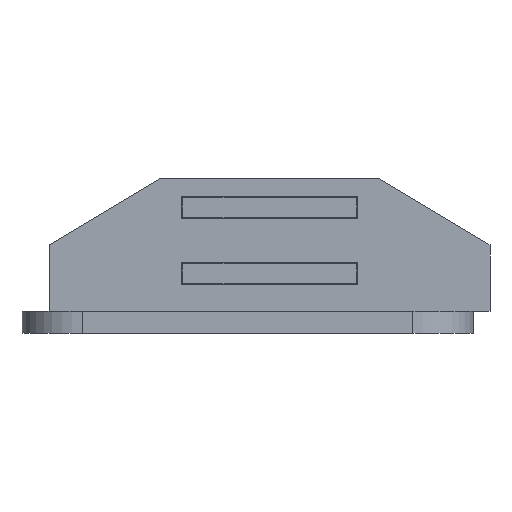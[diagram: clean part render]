
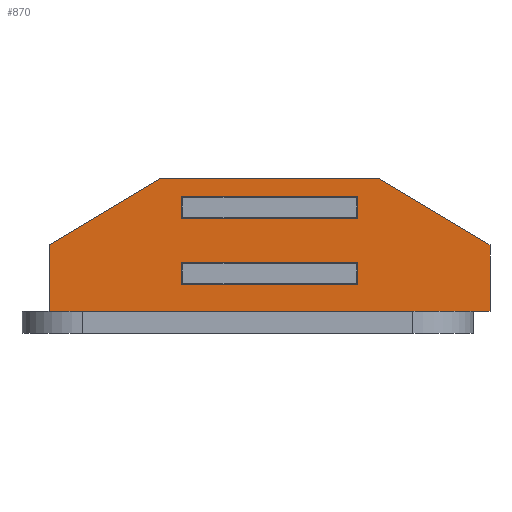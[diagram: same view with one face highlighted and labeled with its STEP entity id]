
A CAD part, front view. The second image highlights one B-rep face of the part: STEP entity #870.
In plain terms, the highlighted planar face has unit normal (0, -1, 0) as drawn and (0, 0, 1) by its records, which use the part's own axes.
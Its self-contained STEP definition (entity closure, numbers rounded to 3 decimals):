
#684=CARTESIAN_POINT('',(8.4,-8.0,13.0));
#685=VERTEX_POINT('',#684);
#692=CARTESIAN_POINT('',(10.4,-8.0,13.0));
#693=VERTEX_POINT('',#692);
#694=CARTESIAN_POINT('',(10.4,-8.0,13.0));
#695=DIRECTION('',(-1.0,0.0,0.0));
#696=VECTOR('',#695,2.0);
#697=LINE('',#694,#696);
#698=EDGE_CURVE('',#693,#685,#697,.T.);
#715=CARTESIAN_POINT('',(8.4,8.0,13.0));
#716=VERTEX_POINT('',#715);
#723=CARTESIAN_POINT('',(8.4,-8.0,13.0));
#724=DIRECTION('',(0.0,1.0,0.0));
#725=VECTOR('',#724,16.0);
#726=LINE('',#723,#725);
#727=EDGE_CURVE('',#685,#716,#726,.T.);
#739=CARTESIAN_POINT('',(10.4,8.0,13.0));
#740=VERTEX_POINT('',#739);
#747=CARTESIAN_POINT('',(8.4,8.0,13.0));
#748=DIRECTION('',(1.0,0.0,0.0));
#749=VECTOR('',#748,2.0);
#750=LINE('',#747,#749);
#751=EDGE_CURVE('',#716,#740,#750,.T.);
#764=CARTESIAN_POINT('',(10.4,8.0,13.0));
#765=DIRECTION('',(0.0,-1.0,0.0));
#766=VECTOR('',#765,16.0);
#767=LINE('',#764,#766);
#768=EDGE_CURVE('',#740,#693,#767,.T.);
#775=CARTESIAN_POINT('',(-0.6,-22.0,13.0));
#776=DIRECTION('',(0.0,0.0,1.0));
#777=DIRECTION('',(1.0,0.0,0.0));
#778=AXIS2_PLACEMENT_3D('',#775,#776,#777);
#779=PLANE('',#778);
#780=CARTESIAN_POINT('',(0.,20.0,13.0));
#781=VERTEX_POINT('',#780);
#782=CARTESIAN_POINT('',(6.0,20.0,13.0));
#783=VERTEX_POINT('',#782);
#784=CARTESIAN_POINT('',(0.,20.0,13.0));
#785=DIRECTION('',(1.0,0.0,0.0));
#786=VECTOR('',#785,6.);
#787=LINE('',#784,#786);
#788=EDGE_CURVE('',#781,#783,#787,.T.);
#789=ORIENTED_EDGE('',*,*,#788,.F.);
#790=CARTESIAN_POINT('',(0.,-20.0,13.0));
#791=VERTEX_POINT('',#790);
#792=CARTESIAN_POINT('',(0.,-20.0,13.0));
#793=DIRECTION('',(0.0,1.0,0.0));
#794=VECTOR('',#793,40.0);
#795=LINE('',#792,#794);
#796=EDGE_CURVE('',#791,#781,#795,.T.);
#797=ORIENTED_EDGE('',*,*,#796,.F.);
#798=CARTESIAN_POINT('',(6.0,-20.0,13.0));
#799=VERTEX_POINT('',#798);
#800=CARTESIAN_POINT('',(6.0,-20.0,13.0));
#801=DIRECTION('',(-1.0,0.0,0.0));
#802=VECTOR('',#801,6.);
#803=LINE('',#800,#802);
#804=EDGE_CURVE('',#799,#791,#803,.T.);
#805=ORIENTED_EDGE('',*,*,#804,.F.);
#806=CARTESIAN_POINT('',(12.0,-10.0,13.0));
#807=VERTEX_POINT('',#806);
#808=CARTESIAN_POINT('',(12.0,-10.0,13.0));
#809=DIRECTION('',(-0.514,-0.857,0.0));
#810=VECTOR('',#809,11.662);
#811=LINE('',#808,#810);
#812=EDGE_CURVE('',#807,#799,#811,.T.);
#813=ORIENTED_EDGE('',*,*,#812,.F.);
#814=CARTESIAN_POINT('',(12.0,10.0,13.0));
#815=VERTEX_POINT('',#814);
#816=CARTESIAN_POINT('',(12.0,10.0,13.0));
#817=DIRECTION('',(0.0,-1.0,0.0));
#818=VECTOR('',#817,20.0);
#819=LINE('',#816,#818);
#820=EDGE_CURVE('',#815,#807,#819,.T.);
#821=ORIENTED_EDGE('',*,*,#820,.F.);
#822=CARTESIAN_POINT('',(6.0,20.0,13.0));
#823=DIRECTION('',(0.514,-0.857,0.0));
#824=VECTOR('',#823,11.662);
#825=LINE('',#822,#824);
#826=EDGE_CURVE('',#783,#815,#825,.T.);
#827=ORIENTED_EDGE('',*,*,#826,.F.);
#828=EDGE_LOOP('',(#789,#797,#805,#813,#821,#827));
#829=FACE_OUTER_BOUND('',#828,.T.);
#830=CARTESIAN_POINT('',(4.4,-8.0,13.0));
#831=VERTEX_POINT('',#830);
#832=CARTESIAN_POINT('',(2.4,-8.0,13.0));
#833=VERTEX_POINT('',#832);
#834=CARTESIAN_POINT('',(4.4,-8.0,13.0));
#835=DIRECTION('',(-1.0,0.0,0.0));
#836=VECTOR('',#835,2.);
#837=LINE('',#834,#836);
#838=EDGE_CURVE('',#831,#833,#837,.T.);
#839=ORIENTED_EDGE('',*,*,#838,.T.);
#840=CARTESIAN_POINT('',(2.4,8.0,13.0));
#841=VERTEX_POINT('',#840);
#842=CARTESIAN_POINT('',(2.4,-8.0,13.0));
#843=DIRECTION('',(0.0,1.0,0.0));
#844=VECTOR('',#843,16.0);
#845=LINE('',#842,#844);
#846=EDGE_CURVE('',#833,#841,#845,.T.);
#847=ORIENTED_EDGE('',*,*,#846,.T.);
#848=CARTESIAN_POINT('',(4.4,8.0,13.0));
#849=VERTEX_POINT('',#848);
#850=CARTESIAN_POINT('',(2.4,8.0,13.0));
#851=DIRECTION('',(1.0,0.0,0.0));
#852=VECTOR('',#851,2.);
#853=LINE('',#850,#852);
#854=EDGE_CURVE('',#841,#849,#853,.T.);
#855=ORIENTED_EDGE('',*,*,#854,.T.);
#856=CARTESIAN_POINT('',(4.4,8.0,13.0));
#857=DIRECTION('',(0.0,-1.0,0.0));
#858=VECTOR('',#857,16.0);
#859=LINE('',#856,#858);
#860=EDGE_CURVE('',#849,#831,#859,.T.);
#861=ORIENTED_EDGE('',*,*,#860,.T.);
#862=EDGE_LOOP('',(#839,#847,#855,#861));
#863=FACE_BOUND('',#862,.T.);
#864=ORIENTED_EDGE('',*,*,#698,.T.);
#865=ORIENTED_EDGE('',*,*,#727,.T.);
#866=ORIENTED_EDGE('',*,*,#751,.T.);
#867=ORIENTED_EDGE('',*,*,#768,.T.);
#868=EDGE_LOOP('',(#864,#865,#866,#867));
#869=FACE_BOUND('',#868,.T.);
#870=ADVANCED_FACE('',(#829,#863,#869),#779,.T.);
